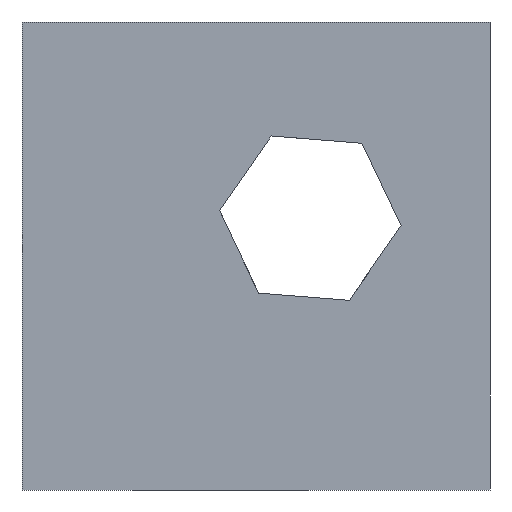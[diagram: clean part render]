
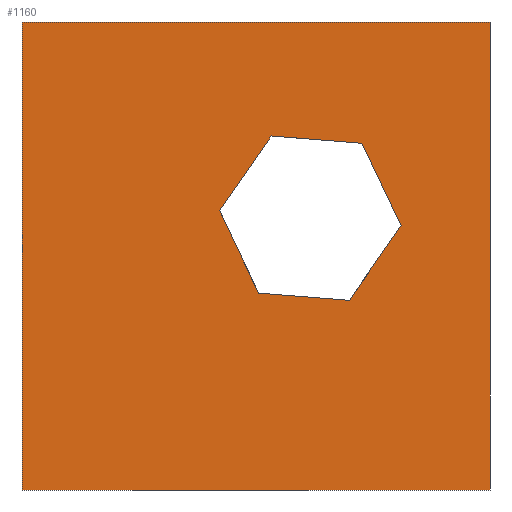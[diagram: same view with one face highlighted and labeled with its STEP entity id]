
A CAD part, front view. The second image highlights one B-rep face of the part: STEP entity #1160.
In plain terms, the highlighted planar face has unit normal (0, -1, 0).
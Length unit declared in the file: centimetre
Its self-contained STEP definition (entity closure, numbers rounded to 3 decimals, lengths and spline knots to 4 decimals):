
#2 = VERTEX_POINT ( 'NONE', #557 ) ;
#10 = CARTESIAN_POINT ( 'NONE',  ( 0., 0., 1000. ) ) ;
#23 = CARTESIAN_POINT ( 'NONE',  ( 0., 0., 1000. ) ) ;
#40 = VECTOR ( 'NONE', #568, 100. ) ;
#55 = CARTESIAN_POINT ( 'NONE',  ( 1000., 0., 1000. ) ) ;
#75 = LINE ( 'NONE', #957, #815 ) ;
#118 = CARTESIAN_POINT ( 'NONE',  ( 726.429, 0., 740.9097 ) ) ;
#122 = VERTEX_POINT ( 'NONE', #290 ) ;
#137 = CARTESIAN_POINT ( 'NONE',  ( 809.8523, 0., 565.2734 ) ) ;
#147 = EDGE_CURVE ( 'NONE', #520, #690, #384, .T. ) ;
#148 = AXIS2_PLACEMENT_3D ( 'NONE', #10, #738, #1019 ) ;
#152 = DIRECTION ( 'NONE',  ( -0.568, 0., -0.823 ) ) ;
#181 = DIRECTION ( 'NONE',  ( 0.997, 0., -0.08 ) ) ;
#184 = VERTEX_POINT ( 'NONE', #1022 ) ;
#189 = CARTESIAN_POINT ( 'NONE',  ( 809.8523, 0., 565.2734 ) ) ;
#192 = FACE_BOUND ( 'NONE', #968, .T. ) ;
#204 = ORIENTED_EDGE ( 'NONE', *, *, #402, .F. ) ;
#228 = VERTEX_POINT ( 'NONE', #938 ) ;
#236 = VECTOR ( 'NONE', #630, 100. ) ;
#243 = DIRECTION ( 'NONE',  ( 0.429, 0., -0.903 ) ) ;
#265 = LINE ( 'NONE', #623, #339 ) ;
#277 = VERTEX_POINT ( 'NONE', #137 ) ;
#290 = CARTESIAN_POINT ( 'NONE',  ( 1000., 0., 0. ) ) ;
#309 = LINE ( 'NONE', #862, #396 ) ;
#310 = VERTEX_POINT ( 'NONE', #1136 ) ;
#320 = ORIENTED_EDGE ( 'NONE', *, *, #147, .F. ) ;
#321 = VECTOR ( 'NONE', #763, 100. ) ;
#339 = VECTOR ( 'NONE', #181, 100. ) ;
#343 = EDGE_CURVE ( 'NONE', #450, #184, #697, .T. ) ;
#357 = VECTOR ( 'NONE', #1025, 100. ) ;
#358 = CARTESIAN_POINT ( 'NONE',  ( 422.218, 0., 596.4163 ) ) ;
#367 = ORIENTED_EDGE ( 'NONE', *, *, #489, .T. ) ;
#384 = LINE ( 'NONE', #742, #40 ) ;
#385 = EDGE_LOOP ( 'NONE', ( #367, #484, #320, #828 ) ) ;
#396 = VECTOR ( 'NONE', #600, 100. ) ;
#402 = EDGE_CURVE ( 'NONE', #184, #926, #265, .T. ) ;
#421 = ORIENTED_EDGE ( 'NONE', *, *, #882, .F. ) ;
#450 = VERTEX_POINT ( 'NONE', #358 ) ;
#484 = ORIENTED_EDGE ( 'NONE', *, *, #548, .F. ) ;
#489 = EDGE_CURVE ( 'NONE', #228, #122, #1040, .T. ) ;
#505 = CARTESIAN_POINT ( 'NONE',  ( 0., 0., 0. ) ) ;
#520 = VERTEX_POINT ( 'NONE', #23 ) ;
#548 = EDGE_CURVE ( 'NONE', #690, #122, #309, .T. ) ;
#555 = CARTESIAN_POINT ( 'NONE',  ( 0., 0., 1000. ) ) ;
#557 = CARTESIAN_POINT ( 'NONE',  ( 532.6119, 0., 756.4811 ) ) ;
#568 = DIRECTION ( 'NONE',  ( 1., 0., 0. ) ) ;
#593 = EDGE_CURVE ( 'NONE', #310, #2, #685, .T. ) ;
#600 = DIRECTION ( 'NONE',  ( 0., 0., -1. ) ) ;
#623 = CARTESIAN_POINT ( 'NONE',  ( 505.6413, 0., 420.78 ) ) ;
#630 = DIRECTION ( 'NONE',  ( 0.568, 0., 0.823 ) ) ;
#653 = EDGE_CURVE ( 'NONE', #2, #450, #75, .T. ) ;
#685 = LINE ( 'NONE', #118, #321 ) ;
#690 = VERTEX_POINT ( 'NONE', #55 ) ;
#697 = LINE ( 'NONE', #1056, #1091 ) ;
#704 = ORIENTED_EDGE ( 'NONE', *, *, #653, .F. ) ;
#706 = LINE ( 'NONE', #189, #733 ) ;
#733 = VECTOR ( 'NONE', #1154, 100. ) ;
#738 = DIRECTION ( 'NONE',  ( 0., 1., 0. ) ) ;
#742 = CARTESIAN_POINT ( 'NONE',  ( 0., 0., 1000. ) ) ;
#763 = DIRECTION ( 'NONE',  ( -0.997, 0., 0.08 ) ) ;
#790 = CARTESIAN_POINT ( 'NONE',  ( 699.4585, 0., 405.2085 ) ) ;
#798 = CARTESIAN_POINT ( 'NONE',  ( 699.4585, 0., 405.2085 ) ) ;
#815 = VECTOR ( 'NONE', #152, 100. ) ;
#824 = VECTOR ( 'NONE', #1023, 100. ) ;
#828 = ORIENTED_EDGE ( 'NONE', *, *, #958, .T. ) ;
#839 = LINE ( 'NONE', #555, #824 ) ;
#862 = CARTESIAN_POINT ( 'NONE',  ( 1000., 0., 1000. ) ) ;
#882 = EDGE_CURVE ( 'NONE', #277, #310, #706, .T. ) ;
#895 = EDGE_CURVE ( 'NONE', #926, #277, #995, .T. ) ;
#926 = VERTEX_POINT ( 'NONE', #790 ) ;
#929 = ORIENTED_EDGE ( 'NONE', *, *, #593, .F. ) ;
#938 = CARTESIAN_POINT ( 'NONE',  ( 0., 0., 0. ) ) ;
#957 = CARTESIAN_POINT ( 'NONE',  ( 532.6119, 0., 756.4811 ) ) ;
#958 = EDGE_CURVE ( 'NONE', #520, #228, #839, .T. ) ;
#968 = EDGE_LOOP ( 'NONE', ( #929, #421, #1100, #204, #1058, #704 ) ) ;
#995 = LINE ( 'NONE', #798, #236 ) ;
#1019 = DIRECTION ( 'NONE',  ( 0., 0., 1. ) ) ;
#1022 = CARTESIAN_POINT ( 'NONE',  ( 505.6413, 0., 420.78 ) ) ;
#1023 = DIRECTION ( 'NONE',  ( 0., 0., -1. ) ) ;
#1025 = DIRECTION ( 'NONE',  ( 1., 0., 0. ) ) ;
#1040 = LINE ( 'NONE', #505, #357 ) ;
#1056 = CARTESIAN_POINT ( 'NONE',  ( 422.218, 0., 596.4163 ) ) ;
#1058 = ORIENTED_EDGE ( 'NONE', *, *, #343, .F. ) ;
#1091 = VECTOR ( 'NONE', #243, 100. ) ;
#1099 = PLANE ( 'NONE',  #148 ) ;
#1100 = ORIENTED_EDGE ( 'NONE', *, *, #895, .F. ) ;
#1136 = CARTESIAN_POINT ( 'NONE',  ( 726.429, 0., 740.9097 ) ) ;
#1154 = DIRECTION ( 'NONE',  ( -0.429, 0., 0.903 ) ) ;
#1160 = ADVANCED_FACE ( 'NONE', ( #192, #1163 ), #1099, .F. ) ;
#1163 = FACE_OUTER_BOUND ( 'NONE', #385, .T. ) ;
